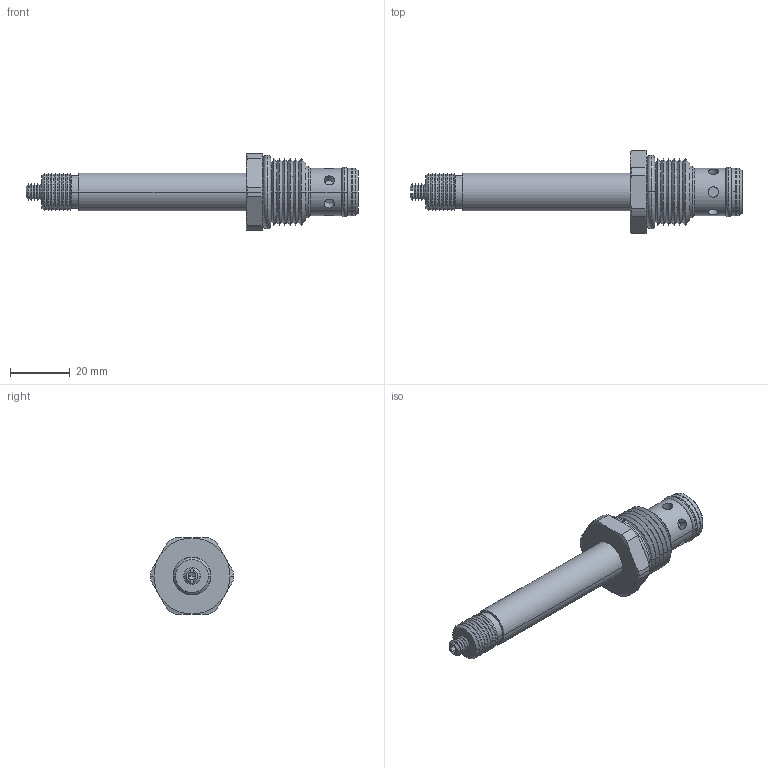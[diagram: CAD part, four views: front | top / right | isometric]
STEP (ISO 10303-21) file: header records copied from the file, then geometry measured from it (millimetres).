
FILE_DESCRIPTION((''),'2;1');
FILE_NAME('U:\Solid model CD\Solid model full\Solenoid\STEP\DES2C0M-3D Full.stp','2008-06-23T08:21:13',('Dan'),(''),'Autodesk Inventor 9','Autodesk Inventor 9','');
FILE_SCHEMA(('AUTOMOTIVE_DESIGN { 1 0 10303 214 1 1 1 1 }'));
Length unit declared in the file: inch
Products named in the file (5): DES2C0M-3D Full; DES2C0M-3D Full1; DES2C0M-3D Full2; DES2C0M-3D Full3; DES2C0M-3D Full4
Assembly tree (4 placements, depth 2):
  DES2C0M-3D Full
    DES2C0M-3D Full1
    DES2C0M-3D Full2
    DES2C0M-3D Full3
    DES2C0M-3D Full4
Bounding box: 110.74 x 27.76 x 25.4 mm (x, y, z)
Volume: 19696.2 mm3; surface area: 8251.6 mm2
Topology: 4 solids, 4 shells, 209 faces, 469 edges, 278 vertices
Faces by surface type: cone 108, cylinder 46, plane 33, torus 12, bspline 10
Entity records: 6676 total; most frequent: CARTESIAN_POINT 1767, DIRECTION 1132, ORIENTED_EDGE 938, AXIS2_PLACEMENT_3D 485, EDGE_CURVE 469, VERTEX_POINT 280, CIRCLE 277, EDGE_LOOP 227
